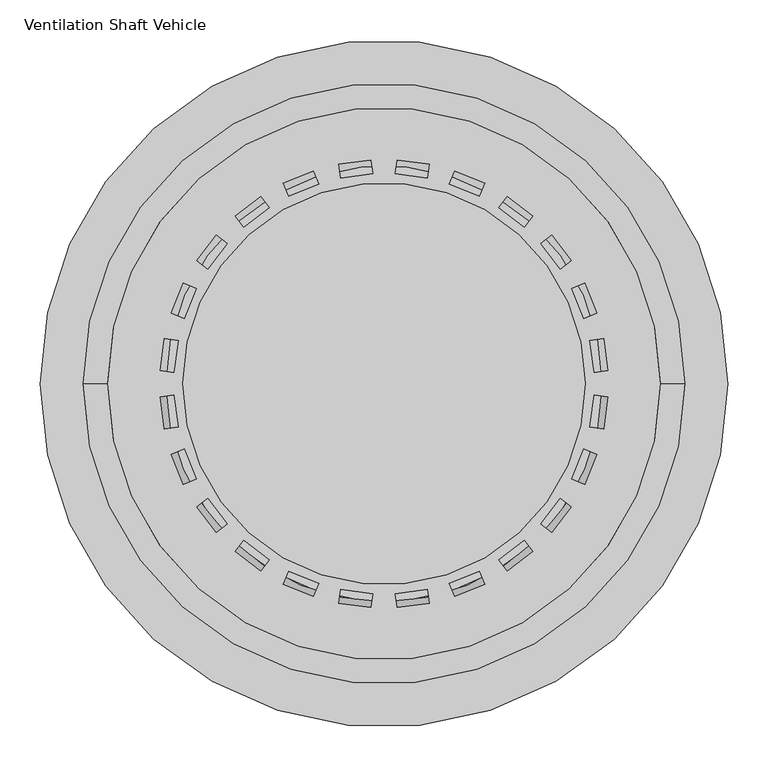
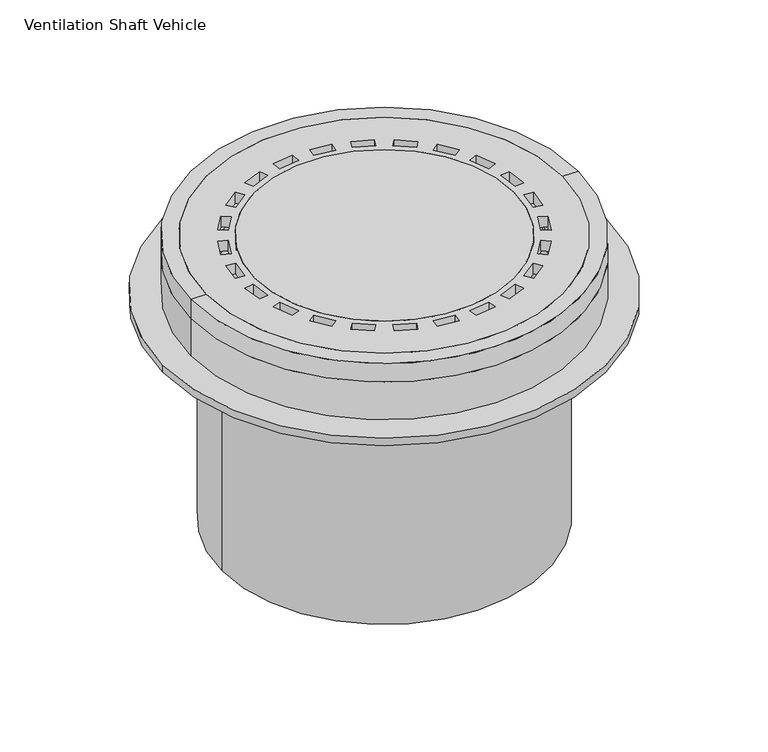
"""IFC4 building model written with IfcOpenShell, lengths in millimetres: proxy geometry, GRAF Tele Ventilation Shaft Vehicle : Ventilation Shaft Vehicle."""

from ifc_helpers import new_model, si_unit, point, frame, origin, origin_2d, place, context, project, spatial, polyline, circle_curve, trimmed, segment, composite_curve, outline, extrude, source, transform, mapped, element, save
from ifc_brep_helpers import plane_surface, cylinder_surface, revolved_surface, advanced_brep


def ventilation_shaft_vehicle_b4d13a4b(model_context):
    return source(origin(), model_context, "Body", "SolidModel", [
        extrude(outline(composite_curve([segment(trimmed(circle_curve(origin_2d(), 427.5), [point((-427.5, 0.0))], [point((427.5, 0.0))], False, "CARTESIAN"), True, "CONTINUOUS"), segment(trimmed(circle_curve(origin_2d(), 427.5), [point((427.5, 0.0))], [point((-427.5, 0.0))], False, "CARTESIAN"), True, "CONTINUOUS")], self_intersect=False), holes=[composite_curve([segment(trimmed(circle_curve(origin_2d(), 300.0), [point((-300.0, 0.0))], [point((300.0, 0.0))], True, "CARTESIAN"), True, "CONTINUOUS"), segment(trimmed(circle_curve(origin_2d(), 300.0), [point((300.0, 0.0))], [point((-300.0, 0.0))], True, "CARTESIAN"), True, "CONTINUOUS")], self_intersect=False)]), frame((0.0, 0.0, -129.9500624), z_axis=(0.0, 0.0, 1.0), x_axis=(1.0, 0.0, 0.0)), (0.0, 0.0, 1.0), 14.9500624),
        extrude(outline(composite_curve([segment(trimmed(circle_curve(origin_2d(), 313.0), [point((-313.0, 0.0))], [point((313.0, 0.0))], False, "CARTESIAN"), True, "CONTINUOUS"), segment(trimmed(circle_curve(origin_2d(), 313.0), [point((313.0, 0.0))], [point((-313.0, 0.0))], False, "CARTESIAN"), True, "CONTINUOUS")], self_intersect=False), holes=[composite_curve([segment(trimmed(circle_curve(origin_2d(), 300.0), [point((-300.0, 0.0))], [point((300.0, 0.0))], True, "CARTESIAN"), True, "CONTINUOUS"), segment(trimmed(circle_curve(origin_2d(), 300.0), [point((300.0, 0.0))], [point((-300.0, 0.0))], True, "CARTESIAN"), True, "CONTINUOUS")], self_intersect=False)]), frame((0.0, 0.0, -575.0), z_axis=(0.0, 0.0, 1.0), x_axis=(1.0, 0.0, 0.0)), (0.0, 0.0, 1.0), 445.0499376),
        extrude(outline(composite_curve([segment(trimmed(circle_curve(origin_2d(), 427.5), [point((-427.5, 0.0))], [point((427.5, 0.0))], False, "CARTESIAN"), True, "CONTINUOUS"), segment(trimmed(circle_curve(origin_2d(), 427.5), [point((427.5, 0.0))], [point((-427.5, 0.0))], False, "CARTESIAN"), True, "CONTINUOUS")], self_intersect=False), holes=[composite_curve([segment(trimmed(circle_curve(origin_2d(), 300.0), [point((-300.0, 0.0))], [point((300.0, 0.0))], True, "CARTESIAN"), True, "CONTINUOUS"), segment(trimmed(circle_curve(origin_2d(), 300.0), [point((300.0, 0.0))], [point((-300.0, 0.0))], True, "CARTESIAN"), True, "CONTINUOUS")], self_intersect=False)]), frame((0.0, 0.0, -129.9500624), z_axis=(0.0, 0.0, 1.0), x_axis=(1.0, 0.0, 0.0)), (0.0, 0.0, 1.0), 14.9500624),
        extrude(outline(composite_curve([segment(trimmed(circle_curve(origin_2d(), 250.0), [point((-250.0, 0.0))], [point((250.0, 0.0))], False, "CARTESIAN"), True, "CONTINUOUS"), segment(trimmed(circle_curve(origin_2d(), 250.0), [point((250.0, 0.0))], [point((-250.0, 0.0))], False, "CARTESIAN"), True, "CONTINUOUS")], self_intersect=False)), frame((0.0, 0.0, -21.8781268), z_axis=(0.0, 0.0, 1.0), x_axis=(1.0, 0.0, 0.0)), (0.0, 0.0, 1.0), 21.8781268),
        extrude(outline(composite_curve([segment(trimmed(circle_curve(origin_2d(), 343.658056), [point((-343.658056, 0.0))], [point((343.658056, 0.0))], False, "CARTESIAN"), True, "CONTINUOUS"), segment(trimmed(circle_curve(origin_2d(), 343.658056), [point((343.658056, 0.0))], [point((-343.658056, 0.0))], False, "CARTESIAN"), True, "CONTINUOUS")], self_intersect=False), holes=[composite_curve([segment(trimmed(circle_curve(origin_2d(), 250.0), [point((-250.0, 0.0))], [point((250.0, 0.0))], True, "CARTESIAN"), True, "CONTINUOUS"), segment(trimmed(circle_curve(origin_2d(), 250.0), [point((250.0, 0.0))], [point((-250.0, 0.0))], True, "CARTESIAN"), True, "CONTINUOUS")], self_intersect=False), composite_curve([segment(polyline([(-278.5120155, 16.4941566), (-261.1773671, 14.2120068), (-255.9592365, 53.8476439), (-273.2954859, 56.1300044)]), True, "CONTINUOUS"), segment(trimmed(circle_curve(origin_2d(), 279.0), [point((-273.2954859, 56.1300044))], [point((-278.5120155, 16.4941566))], True, "CARTESIAN"), True, "CONTINUOUS")], self_intersect=False), composite_curve([segment(trimmed(circle_curve(origin_2d(), 279.0), [point((-278.5120155, -16.4941566))], [point((-273.2954859, -56.1300044))], True, "CARTESIAN"), True, "CONTINUOUS"), segment(polyline([(-273.2954859, -56.1300044), (-255.9592365, -53.8476439), (-261.1773671, -14.2120068), (-278.5120155, -16.4941566)]), True, "CONTINUOUS")], self_intersect=False), composite_curve([segment(trimmed(circle_curve(origin_2d(), 279.0), [point((-232.9514024, -153.5403664))], [point((-208.6158313, -185.2577527))], True, "CARTESIAN"), True, "CONTINUOUS"), segment(polyline([(-208.6158313, -185.2577527), (-194.7433792, -174.6130458), (-219.0802314, -142.8966425), (-232.9514024, -153.5403664)]), True, "CONTINUOUS")], self_intersect=False), composite_curve([segment(polyline([(-249.445559, -124.9716492), (-233.2922382, -118.2807246), (-248.5910231, -81.3461907), (-264.7458357, -88.0377332)]), True, "CONTINUOUS"), segment(trimmed(circle_curve(origin_2d(), 279.0), [point((-264.7458357, -88.0377332))], [point((-249.445559, -124.9716492))], True, "CARTESIAN"), True, "CONTINUOUS")], self_intersect=False), composite_curve([segment(trimmed(circle_curve(origin_2d(), 279.0), [point((16.4941566, -278.5120155))], [point((56.1300044, -273.2954859))], True, "CARTESIAN"), True, "CONTINUOUS"), segment(polyline([(56.1300044, -273.2954859), (53.8476439, -255.9592365), (14.2120068, -261.1773671), (16.4941566, -278.5120155)]), True, "CONTINUOUS")], self_intersect=False), composite_curve([segment(polyline([(-16.4941566, -278.5120155), (-14.2120068, -261.1773671), (-53.8476439, -255.9592365), (-56.1300044, -273.2954859)]), True, "CONTINUOUS"), segment(trimmed(circle_curve(origin_2d(), 279.0), [point((-56.1300044, -273.2954859))], [point((-16.4941566, -278.5120155))], True, "CARTESIAN"), True, "CONTINUOUS")], self_intersect=False), composite_curve([segment(polyline([(-153.5403664, -232.9514024), (-142.8966425, -219.0802314), (-174.6130458, -194.7433792), (-185.2577527, -208.6158313)]), True, "CONTINUOUS"), segment(trimmed(circle_curve(origin_2d(), 279.0), [point((-185.2577527, -208.6158313))], [point((-153.5403664, -232.9514024))], True, "CARTESIAN"), True, "CONTINUOUS")], self_intersect=False), composite_curve([segment(trimmed(circle_curve(origin_2d(), 279.0), [point((-124.9716492, -249.445559))], [point((-88.0377332, -264.7458357))], True, "CARTESIAN"), True, "CONTINUOUS"), segment(polyline([(-88.0377332, -264.7458357), (-81.3461907, -248.5910231), (-118.2807246, -233.2922382), (-124.9716492, -249.445559)]), True, "CONTINUOUS")], self_intersect=False), composite_curve([segment(trimmed(circle_curve(origin_2d(), 279.0), [point((232.9514024, 153.5403664))], [point((208.6158313, 185.2577527))], True, "CARTESIAN"), True, "CONTINUOUS"), segment(polyline([(208.6158313, 185.2577527), (194.7433792, 174.6130458), (219.0802314, 142.8966425), (232.9514024, 153.5403664)]), True, "CONTINUOUS")], self_intersect=False), composite_curve([segment(polyline([(249.445559, 124.9716492), (233.2922382, 118.2807246), (248.5910231, 81.3461907), (264.7458357, 88.0377332)]), True, "CONTINUOUS"), segment(trimmed(circle_curve(origin_2d(), 279.0), [point((264.7458357, 88.0377332))], [point((249.445559, 124.9716492))], True, "CARTESIAN"), True, "CONTINUOUS")], self_intersect=False), composite_curve([segment(polyline([(278.5120155, -16.4941566), (261.1773671, -14.2120068), (255.9592365, -53.8476439), (273.2954859, -56.1300044)]), True, "CONTINUOUS"), segment(trimmed(circle_curve(origin_2d(), 279.0), [point((273.2954859, -56.1300044))], [point((278.5120155, -16.4941566))], True, "CARTESIAN"), True, "CONTINUOUS")], self_intersect=False), composite_curve([segment(trimmed(circle_curve(origin_2d(), 279.0), [point((278.5120155, 16.4941566))], [point((273.2954859, 56.1300044))], True, "CARTESIAN"), True, "CONTINUOUS"), segment(polyline([(273.2954859, 56.1300044), (255.9592365, 53.8476439), (261.1773671, 14.2120068), (278.5120155, 16.4941566)]), True, "CONTINUOUS")], self_intersect=False), composite_curve([segment(polyline([(124.9716492, -249.445559), (118.2807246, -233.2922382), (81.3461907, -248.5910231), (88.0377332, -264.7458357)]), True, "CONTINUOUS"), segment(trimmed(circle_curve(origin_2d(), 279.0), [point((88.0377332, -264.7458357))], [point((124.9716492, -249.445559))], True, "CARTESIAN"), True, "CONTINUOUS")], self_intersect=False), composite_curve([segment(trimmed(circle_curve(origin_2d(), 279.0), [point((153.5403664, -232.9514024))], [point((185.2577527, -208.6158313))], True, "CARTESIAN"), True, "CONTINUOUS"), segment(polyline([(185.2577527, -208.6158313), (174.6130458, -194.7433792), (142.8966425, -219.0802314), (153.5403664, -232.9514024)]), True, "CONTINUOUS")], self_intersect=False), composite_curve([segment(trimmed(circle_curve(origin_2d(), 279.0), [point((249.445559, -124.9716492))], [point((264.7458357, -88.0377332))], True, "CARTESIAN"), True, "CONTINUOUS"), segment(polyline([(264.7458357, -88.0377332), (248.5910231, -81.3461907), (233.2922382, -118.2807246), (249.445559, -124.9716492)]), True, "CONTINUOUS")], self_intersect=False), composite_curve([segment(polyline([(232.9514024, -153.5403664), (219.0802314, -142.8966425), (194.7433792, -174.6130458), (208.6158313, -185.2577527)]), True, "CONTINUOUS"), segment(trimmed(circle_curve(origin_2d(), 279.0), [point((208.6158313, -185.2577527))], [point((232.9514024, -153.5403664))], True, "CARTESIAN"), True, "CONTINUOUS")], self_intersect=False), composite_curve([segment(polyline([(153.5403664, 232.9514024), (142.8966425, 219.0802314), (174.6130458, 194.7433792), (185.2577527, 208.6158313)]), True, "CONTINUOUS"), segment(trimmed(circle_curve(origin_2d(), 279.0), [point((185.2577527, 208.6158313))], [point((153.5403664, 232.9514024))], True, "CARTESIAN"), True, "CONTINUOUS")], self_intersect=False), composite_curve([segment(trimmed(circle_curve(origin_2d(), 279.0), [point((124.9716492, 249.445559))], [point((88.0377332, 264.7458357))], True, "CARTESIAN"), True, "CONTINUOUS"), segment(polyline([(88.0377332, 264.7458357), (81.3461907, 248.5910231), (118.2807246, 233.2922382), (124.9716492, 249.445559)]), True, "CONTINUOUS")], self_intersect=False), composite_curve([segment(trimmed(circle_curve(origin_2d(), 279.0), [point((-16.4941566, 278.5120155))], [point((-56.1300044, 273.2954859))], True, "CARTESIAN"), True, "CONTINUOUS"), segment(polyline([(-56.1300044, 273.2954859), (-53.8476439, 255.9592365), (-14.2120068, 261.1773671), (-16.4941566, 278.5120155)]), True, "CONTINUOUS")], self_intersect=False), composite_curve([segment(polyline([(16.4941566, 278.5120155), (14.2120068, 261.1773671), (53.8476439, 255.9592365), (56.1300044, 273.2954859)]), True, "CONTINUOUS"), segment(trimmed(circle_curve(origin_2d(), 279.0), [point((56.1300044, 273.2954859))], [point((16.4941566, 278.5120155))], True, "CARTESIAN"), True, "CONTINUOUS")], self_intersect=False), composite_curve([segment(trimmed(circle_curve(origin_2d(), 279.0), [point((-249.445559, 124.9716492))], [point((-264.7458357, 88.0377332))], True, "CARTESIAN"), True, "CONTINUOUS"), segment(polyline([(-264.7458357, 88.0377332), (-248.5910231, 81.3461907), (-233.2922382, 118.2807246), (-249.445559, 124.9716492)]), True, "CONTINUOUS")], self_intersect=False), composite_curve([segment(polyline([(-232.9514024, 153.5403664), (-219.0802314, 142.8966425), (-194.7433792, 174.6130458), (-208.6158313, 185.2577527)]), True, "CONTINUOUS"), segment(trimmed(circle_curve(origin_2d(), 279.0), [point((-208.6158313, 185.2577527))], [point((-232.9514024, 153.5403664))], True, "CARTESIAN"), True, "CONTINUOUS")], self_intersect=False), composite_curve([segment(polyline([(-124.9716492, 249.445559), (-118.2807246, 233.2922382), (-81.3461907, 248.5910231), (-88.0377332, 264.7458357)]), True, "CONTINUOUS"), segment(trimmed(circle_curve(origin_2d(), 279.0), [point((-88.0377332, 264.7458357))], [point((-124.9716492, 249.445559))], True, "CARTESIAN"), True, "CONTINUOUS")], self_intersect=False), composite_curve([segment(trimmed(circle_curve(origin_2d(), 279.0), [point((-153.5403664, 232.9514024))], [point((-185.2577527, 208.6158313))], True, "CARTESIAN"), True, "CONTINUOUS"), segment(polyline([(-185.2577527, 208.6158313), (-174.6130458, 194.7433792), (-142.8966425, 219.0802314), (-153.5403664, 232.9514024)]), True, "CONTINUOUS")], self_intersect=False)]), frame((0.0, 0.0, -21.8781268), z_axis=(0.0, 0.0, 1.0), x_axis=(1.0, 0.0, 0.0)), (0.0, 0.0, 1.0), 21.8781268),
        advanced_brep(
        [(0.0, 0.0, -194.7407283), (-275.0411357, 0.0, -194.7407283), (275.0411357, 0.0, -194.7407283), (298.3348498, 0.0, -107.8074039), (-298.3348498, 0.0, -107.8074039), (-293.1584688, 0.0, -107.8074039), (293.1584688, 0.0, -107.8074039), (271.2045008, 0.0, -189.7407283), (-271.2045008, 0.0, -189.7407283), (0.0, 0.0, -189.7407283)],
        [
            (0, 1),
            (1, 2, circle_curve(frame((0.0, 0.0, -194.7407283), z_axis=(0.0, 0.0, -1.0), x_axis=(-1.0, 0.0, 0.0)), 275.0411357)),
            (2, 0),
            (2, 1, circle_curve(frame((0.0, 0.0, -194.7407283), z_axis=(0.0, 0.0, -1.0), x_axis=(-1.0, 0.0, 0.0)), 275.0411357)),
            (3, 4, circle_curve(frame((0.0, 0.0, -107.8074039), z_axis=(0.0, 0.0, 1.0), x_axis=(-1.0, 0.0, 0.0)), 298.3348498)),
            (4, 5),
            (5, 6, circle_curve(frame((0.0, 0.0, -107.8074039), z_axis=(0.0, 0.0, -1.0), x_axis=(-1.0, 0.0, 0.0)), 293.1584688)),
            (6, 3),
            (4, 3, circle_curve(frame((0.0, 0.0, -107.8074039), z_axis=(0.0, 0.0, 1.0), x_axis=(-1.0, 0.0, 0.0)), 298.3348498)),
            (6, 5, circle_curve(frame((0.0, 0.0, -107.8074039), z_axis=(0.0, 0.0, -1.0), x_axis=(-1.0, 0.0, 0.0)), 293.1584688)),
            (1, 4),
            (3, 2),
            (7, 8, circle_curve(frame((0.0, 0.0, -189.7407283), z_axis=(0.0, 0.0, 1.0), x_axis=(-1.0, 0.0, 0.0)), 271.2045008)),
            (8, 9),
            (9, 7),
            (8, 7, circle_curve(frame((0.0, 0.0, -189.7407283), z_axis=(0.0, 0.0, 1.0), x_axis=(-1.0, 0.0, 0.0)), 271.2045008)),
            (5, 8),
            (7, 6),
        ],
        [
            plane_surface(frame((0.0, 0.0, -194.7407283), z_axis=(0.0, 0.0, -1.0), x_axis=(-1.0, 0.0, 0.0))),
            plane_surface(frame((0.0, 0.0, -107.8074039), z_axis=(0.0, 0.0, 1.0), x_axis=(-1.0, 0.0, 0.0))),
            revolved_surface(polyline([(-298.3348498, 0.0, -107.8074039), (-275.0411357, 0.0, -194.7407283)]), (0.0, 0.0, -234.7407283), (0.0, 0.0, -1.0)),
            plane_surface(frame((0.0, 0.0, -189.7407283), z_axis=(0.0, 0.0, 1.0), x_axis=(-1.0, 0.0, 0.0))),
            revolved_surface(polyline([(-271.2045008, 0.0, -189.7407283), (-293.1584688, 0.0, -107.8074039)]), (0.0, 0.0, -234.7407283), (0.0, 0.0, -1.0)),
        ],
        [
            (0, [[1, 2, 3]]),
            (0, [[-3, 4, -1]]),
            (1, [[5, 6, 7, 8]]),
            (1, [[9, -8, 10, -6]]),
            (2, [[-2, 11, -5, 12]]),
            (2, [[-4, -12, -9, -11]]),
            (3, [[13, 14, 15]]),
            (3, [[16, -15, -14]]),
            (4, [[-7, 17, -13, 18]]),
            (4, [[-10, -18, -16, -17]]),
        ],
    ),
        advanced_brep(
        [(373.8341468, 0.0, -38.0), (-373.8341468, 0.0, -38.0), (-373.8341468, 0.0, 0.0), (373.8341468, 0.0, 0.0), (337.0852626, 0.0, -38.0), (-337.0852626, 0.0, -38.0), (343.658056, 0.0, 0.0), (-343.658056, 0.0, 0.0)],
        [
            (0, 1, circle_curve(frame((0.0, 0.0, -38.0), z_axis=(0.0, 0.0, 1.0), x_axis=(-1.0, 0.0, 0.0)), 373.8341468)),
            (1, 2),
            (2, 3, circle_curve(frame((0.0, 0.0, 0.0), z_axis=(0.0, 0.0, -1.0), x_axis=(-1.0, 0.0, 0.0)), 373.8341468)),
            (3, 0),
            (1, 0, circle_curve(frame((0.0, 0.0, -38.0), z_axis=(0.0, 0.0, 1.0), x_axis=(-1.0, 0.0, 0.0)), 373.8341468)),
            (3, 2, circle_curve(frame((0.0, 0.0, 0.0), z_axis=(0.0, 0.0, -1.0), x_axis=(-1.0, 0.0, 0.0)), 373.8341468)),
            (4, 5, circle_curve(frame((0.0, 0.0, -38.0), z_axis=(0.0, 0.0, 1.0), x_axis=(-1.0, 0.0, 0.0)), 337.0852626)),
            (5, 1),
            (0, 4),
            (5, 4, circle_curve(frame((0.0, 0.0, -38.0), z_axis=(0.0, 0.0, 1.0), x_axis=(-1.0, 0.0, 0.0)), 337.0852626)),
            (6, 7, circle_curve(frame((0.0, 0.0, 0.0), z_axis=(0.0, 0.0, 1.0), x_axis=(-1.0, 0.0, 0.0)), 343.658056)),
            (7, 5),
            (4, 6),
            (7, 6, circle_curve(frame((0.0, 0.0, 0.0), z_axis=(0.0, 0.0, 1.0), x_axis=(-1.0, 0.0, 0.0)), 343.658056)),
            (2, 7),
            (6, 3),
        ],
        [
            cylinder_surface(frame((0.0, 0.0, 417.0), z_axis=(0.0, 0.0, -1.0), x_axis=(-1.0, 0.0, 0.0)), 373.8341468),
            plane_surface(frame((0.0, 0.0, -38.0), z_axis=(0.0, 0.0, -1.0), x_axis=(-1.0, 0.0, 0.0))),
            revolved_surface(polyline([(-337.0852626, 0.0, -38.0), (-343.658056, 0.0, 0.0)]), (0.0, 0.0, 417.0), (0.0, 0.0, -1.0)),
            plane_surface(frame((0.0, 0.0, 0.0), z_axis=(0.0, 0.0, 1.0), x_axis=(-1.0, 0.0, 0.0))),
        ],
        [
            (0, [[1, 2, 3, 4]]),
            (0, [[5, -4, 6, -2]]),
            (1, [[7, 8, -1, 9]]),
            (1, [[10, -9, -5, -8]]),
            (2, [[11, 12, -7, 13]]),
            (2, [[14, -13, -10, -12]]),
            (3, [[-3, 15, -11, 16]]),
            (3, [[-6, -16, -14, -15]]),
        ],
    ),
        advanced_brep(
        [(373.8341468, 0.0, -115.0), (-373.8341468, 0.0, -115.0), (-373.8341468, 0.0, -38.0), (373.8341468, 0.0, -38.0), (304.647628, 0.0, -115.0), (-304.647628, 0.0, -115.0), (304.647628, 0.0, -87.0), (-304.647628, 0.0, -87.0), (309.647628, 0.0, -81.0), (-309.647628, 0.0, -81.0), (329.647628, 0.0, -81.0), (-329.647628, 0.0, -81.0), (337.0852626, 0.0, -38.0), (-337.0852626, 0.0, -38.0)],
        [
            (0, 1, circle_curve(frame((0.0, 0.0, -115.0), z_axis=(0.0, 0.0, 1.0), x_axis=(-1.0, 0.0, 0.0)), 373.8341468)),
            (1, 2),
            (2, 3, circle_curve(frame((0.0, 0.0, -38.0), z_axis=(0.0, 0.0, -1.0), x_axis=(-1.0, 0.0, 0.0)), 373.8341468)),
            (3, 0),
            (1, 0, circle_curve(frame((0.0, 0.0, -115.0), z_axis=(0.0, 0.0, 1.0), x_axis=(-1.0, 0.0, 0.0)), 373.8341468)),
            (3, 2, circle_curve(frame((0.0, 0.0, -38.0), z_axis=(0.0, 0.0, -1.0), x_axis=(-1.0, 0.0, 0.0)), 373.8341468)),
            (4, 5, circle_curve(frame((0.0, 0.0, -115.0), z_axis=(0.0, 0.0, 1.0), x_axis=(-1.0, 0.0, 0.0)), 304.647628)),
            (5, 1),
            (0, 4),
            (5, 4, circle_curve(frame((0.0, 0.0, -115.0), z_axis=(0.0, 0.0, 1.0), x_axis=(-1.0, 0.0, 0.0)), 304.647628)),
            (6, 7, circle_curve(frame((0.0, 0.0, -87.0), z_axis=(0.0, 0.0, 1.0), x_axis=(-1.0, 0.0, 0.0)), 304.647628)),
            (7, 5),
            (4, 6),
            (7, 6, circle_curve(frame((0.0, 0.0, -87.0), z_axis=(0.0, 0.0, 1.0), x_axis=(-1.0, 0.0, 0.0)), 304.647628)),
            (8, 9, circle_curve(frame((0.0, 0.0, -81.0), z_axis=(0.0, 0.0, 1.0), x_axis=(-1.0, 0.0, 0.0)), 309.647628)),
            (9, 7),
            (6, 8),
            (9, 8, circle_curve(frame((0.0, 0.0, -81.0), z_axis=(0.0, 0.0, 1.0), x_axis=(-1.0, 0.0, 0.0)), 309.647628)),
            (10, 11, circle_curve(frame((0.0, 0.0, -81.0), z_axis=(0.0, 0.0, 1.0), x_axis=(-1.0, 0.0, 0.0)), 329.647628)),
            (11, 9),
            (8, 10),
            (11, 10, circle_curve(frame((0.0, 0.0, -81.0), z_axis=(0.0, 0.0, 1.0), x_axis=(-1.0, 0.0, 0.0)), 329.647628)),
            (12, 13, circle_curve(frame((0.0, 0.0, -38.0), z_axis=(0.0, 0.0, 1.0), x_axis=(-1.0, 0.0, 0.0)), 337.0852626)),
            (13, 11),
            (10, 12),
            (13, 12, circle_curve(frame((0.0, 0.0, -38.0), z_axis=(0.0, 0.0, 1.0), x_axis=(-1.0, 0.0, 0.0)), 337.0852626)),
            (2, 13),
            (12, 3),
        ],
        [
            cylinder_surface(frame((0.0, 0.0, 340.0), z_axis=(0.0, 0.0, -1.0), x_axis=(-1.0, 0.0, 0.0)), 373.8341468),
            plane_surface(frame((0.0, 0.0, -115.0), z_axis=(0.0, 0.0, -1.0), x_axis=(-1.0, 0.0, 0.0))),
            revolved_surface(polyline([(-304.647628, 0.0, -115.0), (-304.647628, 0.0, -87.0)]), (0.0, 0.0, 340.0), (0.0, 0.0, -1.0)),
            revolved_surface(polyline([(-304.647628, 0.0, -87.0), (-309.647628, 0.0, -81.0)]), (0.0, 0.0, 340.0), (0.0, 0.0, -1.0)),
            plane_surface(frame((0.0, 0.0, -81.0), z_axis=(0.0, 0.0, 1.0), x_axis=(-1.0, 0.0, 0.0))),
            revolved_surface(polyline([(-329.647628, 0.0, -81.0), (-337.0852626, 0.0, -38.0)]), (0.0, 0.0, 340.0), (0.0, 0.0, -1.0)),
            plane_surface(frame((0.0, 0.0, -38.0), z_axis=(0.0, 0.0, 1.0), x_axis=(-1.0, 0.0, 0.0))),
        ],
        [
            (0, [[1, 2, 3, 4]]),
            (0, [[5, -4, 6, -2]]),
            (1, [[7, 8, -1, 9]]),
            (1, [[10, -9, -5, -8]]),
            (2, [[11, 12, -7, 13]]),
            (2, [[14, -13, -10, -12]]),
            (3, [[15, 16, -11, 17]]),
            (3, [[18, -17, -14, -16]]),
            (4, [[19, 20, -15, 21]]),
            (4, [[22, -21, -18, -20]]),
            (5, [[23, 24, -19, 25]]),
            (5, [[26, -25, -22, -24]]),
            (6, [[-3, 27, -23, 28]]),
            (6, [[-6, -28, -26, -27]]),
        ],
    ),
        extrude(outline(polyline([(0.0, 0.0), (103.6001835, 0.0), (97.7366644, -23.939106), (0.0, 0.0)])), frame((-395.4623133, -121.3292977, -129.9500624), z_axis=(-0.2817325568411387, 0.959492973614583, 0.0), x_axis=(0.9319450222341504, 0.2736437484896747, -0.2379024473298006)), (0.0, 0.0, 1.0), 10.0),
        extrude(outline(polyline([(100.6257242, 0.0), (0.0, -24.6467372), (0.0, 0.0), (100.6257242, 0.0)])), frame((-201.1926619, -239.8239204, -129.9500624), z_axis=(-0.7557495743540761, 0.6548607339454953, 0.0), x_axis=(-0.6548607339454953, -0.7557495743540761, 0.0)), (0.0, 0.0, 1.0), 10.0),
        extrude(outline(polyline([(42.0990731, 0.0), (42.0990731, -100.6257242), (17.0491355, 0.0), (42.0990731, 0.0)])), frame((-260.6091517, -173.4268435, -172.0491355), z_axis=(-0.5406408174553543, 0.8412535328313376, 0.0), x_axis=(0.0, 0.0, 1.0)), (0.0, 0.0, 1.0), 10.0),
        extrude(outline(polyline([(42.0990731, 0.0), (42.0990731, -100.6257242), (17.0491355, 0.0), (42.0990731, 0.0)])), frame((-125.4767391, -286.7918896, -172.0491355), z_axis=(-0.9096319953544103, 0.41541501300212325, 0.0), x_axis=(0.0, 0.0, 1.0)), (0.0, 0.0, 1.0), 10.0),
        extrude(outline(polyline([(0.0, 0.0), (103.6001836, 0.0), (97.7366645, -23.9391061), (0.0, 0.0)])), frame((-53.9159708, -410.127185, -129.9500624), z_axis=(-0.989821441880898, 0.14231483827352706, 0.0), x_axis=(0.1382288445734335, 0.9614027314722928, -0.2379024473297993)), (0.0, 0.0, 1.0), 10.0),
        extrude(outline(polyline([(-129.9500624, 413.6257242), (-129.9500624, 313.0), (-154.5967996, 313.0), (-129.9500624, 413.6257242)])), frame((0.0, -5.0, 0.0), z_axis=(0.0, 1.0, 0.0), x_axis=(0.0, 0.0, 1.0)), (0.0, 0.0, 1.0), 10.0),
        extrude(outline(polyline([(-42.0990731, 0.0), (-17.0491355, 0.0), (-42.0990731, -100.6257243), (-42.0990731, 0.0)])), frame((301.7299635, 83.3848254, -172.0491355), z_axis=(-0.2817325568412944, 0.9594929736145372, 0.0), x_axis=(0.0, 0.0, -1.0)), (0.0, 0.0, 1.0), 10.0),
        extrude(outline(polyline([(0.0, 0.0), (-97.7366644, -23.9391061), (-103.6001835, 0.0), (0.0, 0.0)])), frame((350.6673059, 219.416682, -129.9500624), z_axis=(-0.5406408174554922, 0.8412535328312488, 0.0), x_axis=(0.8171003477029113, 0.5251185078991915, 0.23790244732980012)), (0.0, 0.0, 1.0), 10.0),
        extrude(outline(polyline([(0.0, 0.0), (-97.7366644, -23.9391061), (-103.6001835, 0.0), (0.0, 0.0)])), frame((345.2608977, -227.8292173, -129.9500624), z_axis=(0.5406408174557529, 0.8412535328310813, 0.0), x_axis=(0.8171003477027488, -0.5251185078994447, 0.2379024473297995)), (0.0, 0.0, 1.0), 10.0),
        extrude(outline(polyline([(0.0, 0.0), (0.0, -25.0499376), (-100.6257241, 0.0), (0.0, 0.0)])), frame((298.912638, -92.9797552, -129.9500624), z_axis=(0.28173255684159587, 0.9594929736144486, 0.0), x_axis=(-0.9594929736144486, 0.28173255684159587, 0.0)), (0.0, 0.0, 1.0), 10.0),
        extrude(outline(polyline([(0.0, 0.0), (0.0, -25.0499376), (-100.6257242, 0.0), (0.0, 0.0)])), frame((201.1926619, -239.8239204, -129.9500624), z_axis=(0.7557495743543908, 0.6548607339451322, 0.0), x_axis=(-0.6548607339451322, 0.7557495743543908, 0.0)), (0.0, 0.0, 1.0), 10.0),
        extrude(outline(polyline([(-100.6257242, 0.0), (0.0, 0.0), (0.0, -24.6467372), (-100.6257242, 0.0)])), frame((125.4767391, -286.7918896, -129.9500624), z_axis=(0.909631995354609, 0.41541501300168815, 0.0), x_axis=(-0.41541501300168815, 0.909631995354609, 0.0)), (0.0, 0.0, 1.0), 10.0),
        extrude(outline(polyline([(-42.0990731, 0.0), (-17.0491355, 0.0), (-42.0990731, -100.6257243), (-42.0990731, 0.0)])), frame((39.5954372, -310.5256855, -172.0491355), z_axis=(0.9898214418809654, 0.14231483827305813, 0.0), x_axis=(0.0, 0.0, -1.0)), (0.0, 0.0, 1.0), 10.0),
        extrude(outline(polyline([(0.0, 0.0), (103.6001836, 0.0), (97.7366645, -23.9391061), (0.0, 0.0)])), frame((-63.8141853, 408.7040366, -129.9500624), z_axis=(0.9898214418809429, 0.14231483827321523, 0.0), x_axis=(0.13822884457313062, -0.9614027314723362, -0.2379024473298)), (0.0, 0.0, 1.0), 10.0),
        extrude(outline(polyline([(0.0, 0.0), (0.0, -25.0499376), (-100.6257243, 0.0), (0.0, 0.0)])), frame((49.4936516, 309.1025371, -129.9500624), z_axis=(-0.9898214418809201, 0.14231483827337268, 0.0), x_axis=(-0.14231483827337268, -0.9898214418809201, 0.0)), (0.0, 0.0, 1.0), 10.0),
        extrude(outline(polyline([(-100.6257242, 0.0), (0.0, 0.0), (0.0, -24.6467372), (-100.6257242, 0.0)])), frame((134.573059, 282.6377395, -129.9500624), z_axis=(-0.909631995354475, 0.41541501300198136, 0.0), x_axis=(-0.41541501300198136, -0.909631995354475, 0.0)), (0.0, 0.0, 1.0), 10.0),
        extrude(outline(polyline([(-42.0990731, 0.0), (-17.0491355, 0.0), (-42.0990731, -100.6257242), (-42.0990731, 0.0)])), frame((208.7501576, 233.2753131, -172.0491355), z_axis=(-0.7557495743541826, 0.6548607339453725, 0.0), x_axis=(0.0, 0.0, -1.0)), (0.0, 0.0, 1.0), 10.0),
        extrude(outline(polyline([(100.6257242, 0.0), (0.0, -24.6467372), (0.0, 0.0), (100.6257242, 0.0)])), frame((-208.7501576, 233.2753131, -129.9500624), z_axis=(0.7557495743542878, 0.6548607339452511, 0.0), x_axis=(-0.6548607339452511, 0.7557495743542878, 0.0)), (0.0, 0.0, 1.0), 10.0),
        extrude(outline(polyline([(42.0990731, 0.0), (42.0990731, -100.6257242), (17.0491355, 0.0), (42.0990731, 0.0)])), frame((-134.573059, 282.6377395, -172.0491355), z_axis=(0.9096319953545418, 0.41541501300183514, 0.0), x_axis=(0.0, 0.0, 1.0)), (0.0, 0.0, 1.0), 10.0),
        extrude(outline(polyline([(42.0990731, 0.0), (42.0990731, -100.6257242), (17.0491355, 0.0), (42.0990731, 0.0)])), frame((-266.0155599, 165.0143082, -172.0491355), z_axis=(0.5406408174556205, 0.8412535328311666, 0.0), x_axis=(0.0, 0.0, 1.0)), (0.0, 0.0, 1.0), 10.0),
        extrude(outline(composite_curve([segment(trimmed(circle_curve(origin_2d(), 313.0), [point((-260.5755532, -173.4052511))], [point((-208.7240033, -233.2451295))], True, "CARTESIAN"), True, "CONTINUOUS"), segment(polyline([(-208.7240033, -233.2451295), (-225.0974564, -252.1411016)]), True, "CONTINUOUS"), segment(trimmed(circle_curve(origin_2d(), 338.0), [point((-225.0974564, -252.1411016))], [point((-281.6093769, -186.9228688))], False, "CARTESIAN"), True, "CONTINUOUS"), segment(polyline([(-281.6093769, -186.9228688), (-260.5755532, -173.4052511)]), True, "CONTINUOUS")], self_intersect=False)), frame((0.0, 0.0, -134.9500624), z_axis=(0.0, 0.0, 1.0), x_axis=(1.0, 0.0, 0.0)), (0.0, 0.0, 1.0), 5.0),
        extrude(outline(composite_curve([segment(polyline([(-265.9819613, -164.9927157), (-287.015785, -178.5103334)]), True, "CONTINUOUS"), segment(trimmed(circle_curve(origin_2d(), 338.0), [point((-287.015785, -178.5103334))], [point((-322.8644761, -100.0126494))], False, "CARTESIAN"), True, "CONTINUOUS"), segment(polyline([(-322.8644761, -100.0126494), (-298.8743171, -92.9685031)]), True, "CONTINUOUS"), segment(trimmed(circle_curve(origin_2d(), 313.0), [point((-298.8743171, -92.9685031))], [point((-265.9819613, -164.9927157))], True, "CARTESIAN"), True, "CONTINUOUS")], self_intersect=False)), frame((0.0, 0.0, -134.9500624), z_axis=(0.0, 0.0, 1.0), x_axis=(1.0, 0.0, 0.0)), (0.0, 0.0, 1.0), 5.0),
        extrude(outline(composite_curve([segment(polyline([(-312.9600613, 5.0), (-337.9630157, 5.0)]), True, "CONTINUOUS"), segment(trimmed(circle_curve(origin_2d(), 338.0), [point((-337.9630157, 5.0))], [point((-325.6818017, 90.4177197))], False, "CARTESIAN"), True, "CONTINUOUS"), segment(polyline([(-325.6818017, 90.4177197), (-301.6916427, 83.3735734)]), True, "CONTINUOUS"), segment(trimmed(circle_curve(origin_2d(), 313.0), [point((-301.6916427, 83.3735734))], [point((-312.9600613, 5.0))], True, "CARTESIAN"), True, "CONTINUOUS")], self_intersect=False)), frame((0.0, 0.0, -134.9500624), z_axis=(0.0, 0.0, 1.0), x_axis=(1.0, 0.0, 0.0)), (0.0, 0.0, 1.0), 5.0),
        extrude(outline(composite_curve([segment(trimmed(circle_curve(origin_2d(), 313.0), [point((-312.9600613, -5.0))], [point((-301.6916427, -83.3735734))], True, "CARTESIAN"), True, "CONTINUOUS"), segment(polyline([(-301.6916427, -83.3735734), (-325.6818017, -90.4177197)]), True, "CONTINUOUS"), segment(trimmed(circle_curve(origin_2d(), 338.0), [point((-325.6818017, -90.4177197))], [point((-337.9630157, -5.0))], False, "CARTESIAN"), True, "CONTINUOUS"), segment(polyline([(-337.9630157, -5.0), (-312.9600613, -5.0)]), True, "CONTINUOUS")], self_intersect=False)), frame((0.0, 0.0, -134.9500624), z_axis=(0.0, 0.0, 1.0), x_axis=(1.0, 0.0, 0.0)), (0.0, 0.0, 1.0), 5.0),
        extrude(outline(composite_curve([segment(trimmed(circle_curve(origin_2d(), 313.0), [point((-265.9819613, 164.9927157))], [point((-298.8743171, 92.9685031))], True, "CARTESIAN"), True, "CONTINUOUS"), segment(polyline([(-298.8743171, 92.9685031), (-322.8644761, 100.0126494)]), True, "CONTINUOUS"), segment(trimmed(circle_curve(origin_2d(), 338.0), [point((-322.8644761, 100.0126494))], [point((-287.015785, 178.5103334))], False, "CARTESIAN"), True, "CONTINUOUS"), segment(polyline([(-287.015785, 178.5103334), (-265.9819613, 164.9927157)]), True, "CONTINUOUS")], self_intersect=False)), frame((0.0, 0.0, -134.9500624), z_axis=(0.0, 0.0, 1.0), x_axis=(1.0, 0.0, 0.0)), (0.0, 0.0, 1.0), 5.0),
        extrude(outline(composite_curve([segment(polyline([(-260.5755532, 173.4052511), (-281.6093769, 186.9228688)]), True, "CONTINUOUS"), segment(trimmed(circle_curve(origin_2d(), 338.0), [point((-281.6093769, 186.9228688))], [point((-225.0974564, 252.1411016))], False, "CARTESIAN"), True, "CONTINUOUS"), segment(polyline([(-225.0974564, 252.1411016), (-208.7240033, 233.2451295)]), True, "CONTINUOUS"), segment(trimmed(circle_curve(origin_2d(), 313.0), [point((-208.7240033, 233.2451295))], [point((-260.5755532, 173.4052511))], True, "CARTESIAN"), True, "CONTINUOUS")], self_intersect=False)), frame((0.0, 0.0, -134.9500624), z_axis=(0.0, 0.0, 1.0), x_axis=(1.0, 0.0, 0.0)), (0.0, 0.0, 1.0), 5.0),
        extrude(outline(composite_curve([segment(polyline([(208.7240033, 233.2451295), (225.0974564, 252.1411016)]), True, "CONTINUOUS"), segment(trimmed(circle_curve(origin_2d(), 338.0), [point((225.0974564, 252.1411016))], [point((281.6093769, 186.9228688))], False, "CARTESIAN"), True, "CONTINUOUS"), segment(polyline([(281.6093769, 186.9228688), (260.5755532, 173.4052511)]), True, "CONTINUOUS"), segment(trimmed(circle_curve(origin_2d(), 313.0), [point((260.5755532, 173.4052511))], [point((208.7240033, 233.2451295))], True, "CARTESIAN"), True, "CONTINUOUS")], self_intersect=False)), frame((0.0, 0.0, -134.9500624), z_axis=(0.0, 0.0, 1.0), x_axis=(1.0, 0.0, 0.0)), (0.0, 0.0, 1.0), 5.0),
        extrude(outline(composite_curve([segment(trimmed(circle_curve(origin_2d(), 313.0), [point((201.1665076, 239.7937368))], [point((134.5564679, 282.60141))], True, "CARTESIAN"), True, "CONTINUOUS"), segment(polyline([(134.5564679, 282.60141), (144.9430705, 305.3448973)]), True, "CONTINUOUS"), segment(trimmed(circle_curve(origin_2d(), 338.0), [point((144.9430705, 305.3448973))], [point((217.5399607, 258.689709))], False, "CARTESIAN"), True, "CONTINUOUS"), segment(polyline([(217.5399607, 258.689709), (201.1665076, 239.7937368)]), True, "CONTINUOUS")], self_intersect=False)), frame((0.0, 0.0, -134.9500624), z_axis=(0.0, 0.0, 1.0), x_axis=(1.0, 0.0, 0.0)), (0.0, 0.0, 1.0), 5.0),
        extrude(outline(composite_curve([segment(trimmed(circle_curve(origin_2d(), 313.0), [point((39.5897533, 310.4861534))], [point((-39.5897533, 310.4861534))], True, "CARTESIAN"), True, "CONTINUOUS"), segment(polyline([(-39.5897533, 310.4861534), (-43.1480447, 335.2346137)]), True, "CONTINUOUS"), segment(trimmed(circle_curve(origin_2d(), 338.0), [point((-43.1480447, 335.2346137))], [point((43.1480447, 335.2346137))], False, "CARTESIAN"), True, "CONTINUOUS"), segment(polyline([(43.1480447, 335.2346137), (39.5897533, 310.4861534)]), True, "CONTINUOUS")], self_intersect=False)), frame((0.0, 0.0, -134.9500624), z_axis=(0.0, 0.0, 1.0), x_axis=(1.0, 0.0, 0.0)), (0.0, 0.0, 1.0), 5.0),
        extrude(outline(composite_curve([segment(polyline([(49.4879677, 309.063005), (53.0462591, 333.8114653)]), True, "CONTINUOUS"), segment(trimmed(circle_curve(origin_2d(), 338.0), [point((53.0462591, 333.8114653))], [point((135.8467506, 309.4990474))], False, "CARTESIAN"), True, "CONTINUOUS"), segment(polyline([(135.8467506, 309.4990474), (125.460148, 286.7555601)]), True, "CONTINUOUS"), segment(trimmed(circle_curve(origin_2d(), 313.0), [point((125.460148, 286.7555601))], [point((49.4879677, 309.063005))], True, "CARTESIAN"), True, "CONTINUOUS")], self_intersect=False)), frame((0.0, 0.0, -134.9500624), z_axis=(0.0, 0.0, 1.0), x_axis=(1.0, 0.0, 0.0)), (0.0, 0.0, 1.0), 5.0),
        extrude(outline(composite_curve([segment(polyline([(-125.460148, 286.7555601), (-135.8467506, 309.4990474)]), True, "CONTINUOUS"), segment(trimmed(circle_curve(origin_2d(), 338.0), [point((-135.8467506, 309.4990474))], [point((-53.0462591, 333.8114653))], False, "CARTESIAN"), True, "CONTINUOUS"), segment(polyline([(-53.0462591, 333.8114653), (-49.4879677, 309.063005)]), True, "CONTINUOUS"), segment(trimmed(circle_curve(origin_2d(), 313.0), [point((-49.4879677, 309.063005))], [point((-125.460148, 286.7555601))], True, "CARTESIAN"), True, "CONTINUOUS")], self_intersect=False)), frame((0.0, 0.0, -134.9500624), z_axis=(0.0, 0.0, 1.0), x_axis=(1.0, 0.0, 0.0)), (0.0, 0.0, 1.0), 5.0),
        extrude(outline(composite_curve([segment(trimmed(circle_curve(origin_2d(), 313.0), [point((-134.5564679, 282.60141))], [point((-201.1665076, 239.7937368))], True, "CARTESIAN"), True, "CONTINUOUS"), segment(polyline([(-201.1665076, 239.7937368), (-217.5399607, 258.689709)]), True, "CONTINUOUS"), segment(trimmed(circle_curve(origin_2d(), 338.0), [point((-217.5399607, 258.689709))], [point((-144.9430705, 305.3448973))], False, "CARTESIAN"), True, "CONTINUOUS"), segment(polyline([(-144.9430705, 305.3448973), (-134.5564679, 282.60141)]), True, "CONTINUOUS")], self_intersect=False)), frame((0.0, 0.0, -134.9500624), z_axis=(0.0, 0.0, 1.0), x_axis=(1.0, 0.0, 0.0)), (0.0, 0.0, 1.0), 5.0),
        extrude(outline(composite_curve([segment(trimmed(circle_curve(origin_2d(), 313.0), [point((298.8743171, 92.9685031))], [point((265.9819613, 164.9927157))], True, "CARTESIAN"), True, "CONTINUOUS"), segment(polyline([(265.9819613, 164.9927157), (287.015785, 178.5103334)]), True, "CONTINUOUS"), segment(trimmed(circle_curve(origin_2d(), 338.0), [point((287.015785, 178.5103334))], [point((322.8644761, 100.0126494))], False, "CARTESIAN"), True, "CONTINUOUS"), segment(polyline([(322.8644761, 100.0126494), (298.8743171, 92.9685031)]), True, "CONTINUOUS")], self_intersect=False)), frame((0.0, 0.0, -134.9500624), z_axis=(0.0, 0.0, 1.0), x_axis=(1.0, 0.0, 0.0)), (0.0, 0.0, 1.0), 5.0),
        extrude(outline(composite_curve([segment(polyline([(301.6916427, 83.3735734), (325.6818017, 90.4177197)]), True, "CONTINUOUS"), segment(trimmed(circle_curve(origin_2d(), 338.0), [point((325.6818017, 90.4177197))], [point((337.9630157, 5.0))], False, "CARTESIAN"), True, "CONTINUOUS"), segment(polyline([(337.9630157, 5.0), (312.9600613, 5.0)]), True, "CONTINUOUS"), segment(trimmed(circle_curve(origin_2d(), 313.0), [point((312.9600613, 5.0))], [point((301.6916427, 83.3735734))], True, "CARTESIAN"), True, "CONTINUOUS")], self_intersect=False)), frame((0.0, 0.0, -134.9500624), z_axis=(0.0, 0.0, 1.0), x_axis=(1.0, 0.0, 0.0)), (0.0, 0.0, 1.0), 5.0),
        extrude(outline(composite_curve([segment(polyline([(298.8743171, -92.9685031), (322.8644761, -100.0126494)]), True, "CONTINUOUS"), segment(trimmed(circle_curve(origin_2d(), 338.0), [point((322.8644761, -100.0126494))], [point((287.015785, -178.5103334))], False, "CARTESIAN"), True, "CONTINUOUS"), segment(polyline([(287.015785, -178.5103334), (265.9819613, -164.9927157)]), True, "CONTINUOUS"), segment(trimmed(circle_curve(origin_2d(), 313.0), [point((265.9819613, -164.9927157))], [point((298.8743171, -92.9685031))], True, "CARTESIAN"), True, "CONTINUOUS")], self_intersect=False)), frame((0.0, 0.0, -134.9500624), z_axis=(0.0, 0.0, 1.0), x_axis=(1.0, 0.0, 0.0)), (0.0, 0.0, 1.0), 5.0),
        extrude(outline(composite_curve([segment(trimmed(circle_curve(origin_2d(), 313.0), [point((301.6916427, -83.3735734))], [point((312.9600613, -5.0))], True, "CARTESIAN"), True, "CONTINUOUS"), segment(polyline([(312.9600613, -5.0), (337.9630157, -5.0)]), True, "CONTINUOUS"), segment(trimmed(circle_curve(origin_2d(), 338.0), [point((337.9630157, -5.0))], [point((325.6818017, -90.4177197))], False, "CARTESIAN"), True, "CONTINUOUS"), segment(polyline([(325.6818017, -90.4177197), (301.6916427, -83.3735734)]), True, "CONTINUOUS")], self_intersect=False)), frame((0.0, 0.0, -134.9500624), z_axis=(0.0, 0.0, 1.0), x_axis=(1.0, 0.0, 0.0)), (0.0, 0.0, 1.0), 5.0),
        extrude(outline(composite_curve([segment(trimmed(circle_curve(origin_2d(), 313.0), [point((208.7240033, -233.2451295))], [point((260.5755532, -173.4052511))], True, "CARTESIAN"), True, "CONTINUOUS"), segment(polyline([(260.5755532, -173.4052511), (281.6093769, -186.9228688)]), True, "CONTINUOUS"), segment(trimmed(circle_curve(origin_2d(), 338.0), [point((281.6093769, -186.9228688))], [point((225.0974564, -252.1411016))], False, "CARTESIAN"), True, "CONTINUOUS"), segment(polyline([(225.0974564, -252.1411016), (208.7240033, -233.2451295)]), True, "CONTINUOUS")], self_intersect=False)), frame((0.0, 0.0, -134.9500624), z_axis=(0.0, 0.0, 1.0), x_axis=(1.0, 0.0, 0.0)), (0.0, 0.0, 1.0), 5.0),
        extrude(outline(composite_curve([segment(polyline([(201.1665076, -239.7937368), (217.5399607, -258.689709)]), True, "CONTINUOUS"), segment(trimmed(circle_curve(origin_2d(), 338.0), [point((217.5399607, -258.689709))], [point((144.9430705, -305.3448973))], False, "CARTESIAN"), True, "CONTINUOUS"), segment(polyline([(144.9430705, -305.3448973), (134.5564679, -282.60141)]), True, "CONTINUOUS"), segment(trimmed(circle_curve(origin_2d(), 313.0), [point((134.5564679, -282.60141))], [point((201.1665076, -239.7937368))], True, "CARTESIAN"), True, "CONTINUOUS")], self_intersect=False)), frame((0.0, 0.0, -134.9500624), z_axis=(0.0, 0.0, 1.0), x_axis=(1.0, 0.0, 0.0)), (0.0, 0.0, 1.0), 5.0),
        extrude(outline(composite_curve([segment(trimmed(circle_curve(origin_2d(), 313.0), [point((-125.460148, -286.7555601))], [point((-49.4879677, -309.063005))], True, "CARTESIAN"), True, "CONTINUOUS"), segment(polyline([(-49.4879677, -309.063005), (-53.0462591, -333.8114653)]), True, "CONTINUOUS"), segment(trimmed(circle_curve(origin_2d(), 338.0), [point((-53.0462591, -333.8114653))], [point((-135.8467506, -309.4990474))], False, "CARTESIAN"), True, "CONTINUOUS"), segment(polyline([(-135.8467506, -309.4990474), (-125.460148, -286.7555601)]), True, "CONTINUOUS")], self_intersect=False)), frame((0.0, 0.0, -134.9500624), z_axis=(0.0, 0.0, 1.0), x_axis=(1.0, 0.0, 0.0)), (0.0, 0.0, 1.0), 5.0),
        extrude(outline(composite_curve([segment(polyline([(-134.5564679, -282.60141), (-144.9430705, -305.3448973)]), True, "CONTINUOUS"), segment(trimmed(circle_curve(origin_2d(), 338.0), [point((-144.9430705, -305.3448973))], [point((-217.5399607, -258.689709))], False, "CARTESIAN"), True, "CONTINUOUS"), segment(polyline([(-217.5399607, -258.689709), (-201.1665076, -239.7937368)]), True, "CONTINUOUS"), segment(trimmed(circle_curve(origin_2d(), 313.0), [point((-201.1665076, -239.7937368))], [point((-134.5564679, -282.60141))], True, "CARTESIAN"), True, "CONTINUOUS")], self_intersect=False)), frame((0.0, 0.0, -134.9500624), z_axis=(0.0, 0.0, 1.0), x_axis=(1.0, 0.0, 0.0)), (0.0, 0.0, 1.0), 5.0),
        extrude(outline(composite_curve([segment(polyline([(39.5897533, -310.4861534), (43.1480447, -335.2346137)]), True, "CONTINUOUS"), segment(trimmed(circle_curve(origin_2d(), 338.0), [point((43.1480447, -335.2346137))], [point((-43.1480447, -335.2346137))], False, "CARTESIAN"), True, "CONTINUOUS"), segment(polyline([(-43.1480447, -335.2346137), (-39.5897533, -310.4861534)]), True, "CONTINUOUS"), segment(trimmed(circle_curve(origin_2d(), 313.0), [point((-39.5897533, -310.4861534))], [point((39.5897533, -310.4861534))], True, "CARTESIAN"), True, "CONTINUOUS")], self_intersect=False)), frame((0.0, 0.0, -134.9500624), z_axis=(0.0, 0.0, 1.0), x_axis=(1.0, 0.0, 0.0)), (0.0, 0.0, 1.0), 5.0),
        extrude(outline(composite_curve([segment(trimmed(circle_curve(origin_2d(), 313.0), [point((49.4879677, -309.063005))], [point((125.460148, -286.7555601))], True, "CARTESIAN"), True, "CONTINUOUS"), segment(polyline([(125.460148, -286.7555601), (135.8467506, -309.4990474)]), True, "CONTINUOUS"), segment(trimmed(circle_curve(origin_2d(), 338.0), [point((135.8467506, -309.4990474))], [point((53.0462591, -333.8114653))], False, "CARTESIAN"), True, "CONTINUOUS"), segment(polyline([(53.0462591, -333.8114653), (49.4879677, -309.063005)]), True, "CONTINUOUS")], self_intersect=False)), frame((0.0, 0.0, -134.9500624), z_axis=(0.0, 0.0, 1.0), x_axis=(1.0, 0.0, 0.0)), (0.0, 0.0, 1.0), 5.0),
        extrude(outline(polyline([(0.0, 0.0), (103.6001836, 0.0), (97.7366645, -23.9391061), (0.0, 0.0)])), frame((-398.2796389, 111.734368, -129.9500624), z_axis=(0.2817325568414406, 0.9594929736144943, 0.0), x_axis=(0.9319450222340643, -0.273643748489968, -0.23790244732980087)), (0.0, 0.0, 1.0), 10.0),
        extrude(outline(polyline([(-129.9500624, -313.0), (-129.9500624, -413.6257242), (-155.0, -313.0), (-129.9500624, -313.0)])), frame((0.0, -5.0, 0.0), z_axis=(0.0, 1.0, 0.0), x_axis=(0.0, 0.0, 1.0)), (0.0, 0.0, 1.0), 10.0),
    ])


if __name__ == "__main__":
    model = new_model("IFC4")
    model_context = context("Model", 3, world=origin())
    ifc_project = project(units=[si_unit("LENGTHUNIT", "METRE", prefix="MILLI")], contexts=[model_context])
    site = spatial("IfcSite", under=ifc_project)
    building = spatial("IfcBuilding", under=site)
    placement = place(None, origin())
    ventilation_shaft_vehicle_shape = ventilation_shaft_vehicle_b4d13a4b(model_context)
    element("IfcBuildingElementProxy", 1, Name="GRAF Tele Ventilation Shaft Vehicle : Ventilation Shaft Vehicle", ObjectType="GRAF Tele Ventilation Shaft Vehicle : Ventilation Shaft Vehicle", at=placement, inside=building, context=model_context, shape_type="MappedRepresentation", body=[
        mapped(ventilation_shaft_vehicle_shape, transform((0.0, 0.0, 0.0), x_axis=(1.0, 0.0, 0.0), y_axis=(0.0, 1.0, 0.0), z_axis=(0.0, 0.0, 1.0))),
    ])
    save(model, "model.ifc")
